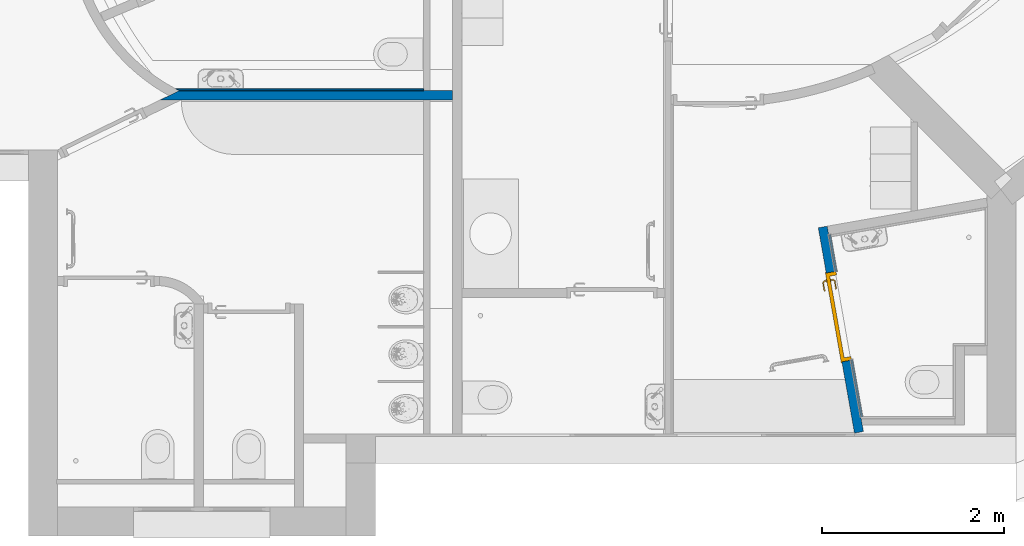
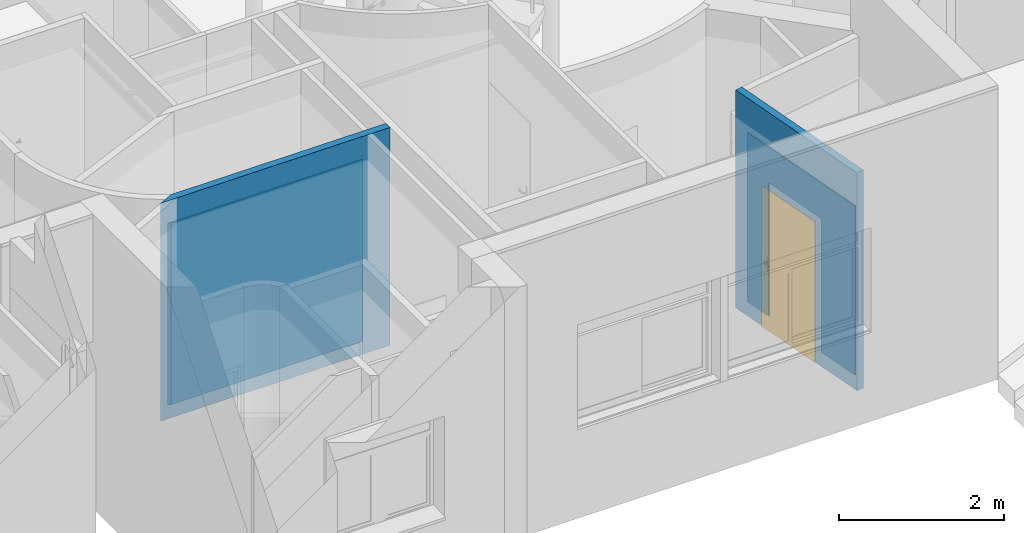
# One storey, part 44 of 137: 4 walls, 1 door, 2 openings.
"""IFC2X3 building model written with IfcOpenShell, lengths in centimetres."""

import ifcopenshell
import ifcopenshell.guid

model = None  # the IFC model being written
_history = None  # IfcOwnerHistory: only IFC2X3 demands one
_inside = {}  # id of a spatial element -> (the spatial element, [elements in it])
_under = {}  # id of a project, library or spatial element -> (it, [spatial elements below it])
_declared = {}  # id of a project -> (the project, [libraries it declares])
_typed = {}  # id of a type object -> (the type object, [elements of that type])
_made_of = {}  # id of a material, layer set ... -> (it, [elements and type objects made of it])


def new_model(schema):
    """Start an empty IFC model of exactly this schema.

    Asked for "IFC4X3", IfcOpenShell would pick the latest addendum, in which some entities
    have other attributes; the version numbers below select the first issue.
    IFC2X3 requires an IfcOwnerHistory on every rooted entity: one is made here for all.
    """
    global model, _history
    if schema == "IFC4X3":
        model = ifcopenshell.file(schema_version=(4, 3, 0, 0))
    else:
        model = ifcopenshell.file(schema=schema)
    _inside.clear()
    _under.clear()
    _declared.clear()
    _typed.clear()
    _made_of.clear()
    _history = None
    if model.schema == "IFC2X3":
        org = make("IfcOrganization", Name="unknown")
        user = make(
            "IfcPersonAndOrganization",
            ThePerson=make("IfcPerson", FamilyName="unknown"),
            TheOrganization=org,
        )
        app = make(
            "IfcApplication",
            ApplicationDeveloper=org,
            Version="unknown",
            ApplicationFullName="unknown",
            ApplicationIdentifier="unknown",
        )
        _history = make(
            "IfcOwnerHistory",
            OwningUser=user,
            OwningApplication=app,
            ChangeAction="ADDED",
            CreationDate=0,
        )
    return model


def make(cls, **values):
    """One entity of the class cls with the attributes given. An attribute that is None is left unset."""
    return model.create_entity(
        cls, **{name: value for name, value in values.items() if value is not None}
    )


def entity(cls, *values):
    """Any entity or typed value of the class cls, its attributes in the order of the schema. None: left unset."""
    e = model.create_entity(cls)
    for i, value in enumerate(values):
        if value is not None:
            e[i] = value
    return e


def rooted(cls, **values):
    """An entity with a GlobalId (a new one), such as an element, a storey or a relation."""
    return make(cls, GlobalId=ifcopenshell.guid.new(), OwnerHistory=_history, **values)


def si_unit(unit_type, name, prefix=None):
    """IfcSIUnit, for example si_unit("LENGTHUNIT", "METRE", prefix="MILLI")."""
    return make("IfcSIUnit", UnitType=unit_type, Prefix=prefix, Name=name)


def converted_unit(unit_type, name, factor, base, dimensions=None, offset=None):
    """IfcConversionBasedUnit, such as the inch: factor (a typed value) times the base unit."""
    return make(
        "IfcConversionBasedUnit"
        if offset is None
        else "IfcConversionBasedUnitWithOffset",
        ConversionOffset=offset,
        Dimensions=None
        if dimensions is None
        else entity("IfcDimensionalExponents", *dimensions),
        UnitType=unit_type,
        Name=name,
        ConversionFactor=make(
            "IfcMeasureWithUnit", ValueComponent=factor, UnitComponent=base
        ),
    )


def derived_unit(unit_type, elements):
    """IfcDerivedUnit: a product of units, each with its exponent."""
    return make(
        "IfcDerivedUnit",
        Elements=[
            make("IfcDerivedUnitElement", Unit=unit, Exponent=power)
            for unit, power in elements
        ],
        UnitType=unit_type,
    )


def assignment(units):
    """IfcUnitAssignment: the units of a project."""
    return None if units is None else make("IfcUnitAssignment", Units=units)


def point(xyz):
    """IfcCartesianPoint."""
    return None if xyz is None else make("IfcCartesianPoint", Coordinates=xyz)


def direction(xyz):
    """IfcDirection."""
    return None if xyz is None else make("IfcDirection", DirectionRatios=xyz)


def frame(location, z_axis=None, x_axis=None):
    """IfcAxis2Placement3D, a coordinate frame: its origin and axes. An axis left out is left unset."""
    return make(
        "IfcAxis2Placement3D",
        Location=point(location),
        Axis=direction(z_axis),
        RefDirection=direction(x_axis),
    )


def frame_2d(location, x_axis=None):
    """IfcAxis2Placement2D, a coordinate frame in the plane: its origin and x axis."""
    return make(
        "IfcAxis2Placement2D", Location=point(location), RefDirection=direction(x_axis)
    )


def origin():
    """The frame at (0, 0, 0) with its axes left unset."""
    return frame((0.0, 0.0, 0.0))


def place(relative_to, where):
    """IfcLocalPlacement: puts the frame where relative to a parent placement (None: the world)."""
    return make(
        "IfcLocalPlacement", PlacementRelTo=relative_to, RelativePlacement=where
    )


def context(
    kind, dimensions, precision=None, world=None, true_north=None, identifier=None
):
    """IfcGeometricRepresentationContext, for example the 3D "Model" context."""
    return make(
        "IfcGeometricRepresentationContext",
        ContextIdentifier=identifier,
        ContextType=kind,
        CoordinateSpaceDimension=dimensions,
        Precision=precision,
        WorldCoordinateSystem=world,
        TrueNorth=true_north,
    )


def subcontext(parent, identifier, kind, view, scale=None):
    """IfcGeometricRepresentationSubContext, for example "Body" below "Model"."""
    return make(
        "IfcGeometricRepresentationSubContext",
        ContextIdentifier=identifier,
        ContextType=kind,
        ParentContext=parent,
        TargetScale=scale,
        TargetView=view,
    )


def project(units=None, contexts=None):
    """IfcProject with its units and contexts."""
    return rooted(
        "IfcProject",
        Name="project",
        RepresentationContexts=contexts,
        UnitsInContext=assignment(units),
    )


def spatial(cls, under=None, at=None, **own):
    """A site, building, storey or space (cls), placed at a placement, below another one or the project."""
    s = rooted(cls, ObjectPlacement=at, **own)
    if under is not None:
        _under.setdefault(under.id(), (under, []))[1].append(s)
    return s


def polyline(points):
    """IfcPolyline through the points."""
    return make("IfcPolyline", Points=[point(p) for p in points])


def circle_curve(where, radius):
    """IfcCircle in the frame where."""
    return make("IfcCircle", Position=where, Radius=radius)


def parameter(value):
    """IfcParameterValue: where a trimmed curve begins or ends, as a parameter of its basis curve."""
    return model.create_entity("IfcParameterValue", value)


def trimmed(basis, trim1, trim2, sense, master):
    """IfcTrimmedCurve: the piece of a basis curve between two trims."""
    return make(
        "IfcTrimmedCurve",
        BasisCurve=basis,
        Trim1=trim1,
        Trim2=trim2,
        SenseAgreement=sense,
        MasterRepresentation=master,
    )


def segment(curve, same_sense, transition):
    """IfcCompositeCurveSegment."""
    return make(
        "IfcCompositeCurveSegment",
        Transition=transition,
        SameSense=same_sense,
        ParentCurve=curve,
    )


def composite_curve(segments, self_intersect=None):
    """IfcCompositeCurve: segments joined end to end."""
    return make("IfcCompositeCurve", Segments=segments, SelfIntersect=self_intersect)


def profile(cls, at=None, kind="AREA", **sizes):
    """A parametric profile (cls). Its sizes go by their IFC names, for example OverallWidth=200.0."""
    return make(cls, ProfileType=kind, Position=at, **sizes)


def rectangle(**sizes):
    """IfcRectangleProfileDef."""
    return profile("IfcRectangleProfileDef", **sizes)


def outline(outer, holes=None, kind="AREA"):
    """IfcArbitraryClosedProfileDef: a profile drawn as a closed curve; with holes, ...WithVoids."""
    if holes is None:
        return make("IfcArbitraryClosedProfileDef", ProfileType=kind, OuterCurve=outer)
    return make(
        "IfcArbitraryProfileDefWithVoids",
        ProfileType=kind,
        OuterCurve=outer,
        InnerCurves=holes,
    )


def extrude(swept, where, along, depth):
    """IfcExtrudedAreaSolid: the profile swept, set in the frame where, extruded along a direction by depth."""
    return make(
        "IfcExtrudedAreaSolid",
        SweptArea=swept,
        Position=where,
        ExtrudedDirection=direction(along),
        Depth=depth,
    )


def faces_of(points, faces, orient=None, outer=None):
    """IfcFace entities. A face is a list of loops; a loop is a list of indices into points, from 0.

    orient and outer hold one flag for each loop. By default every Orientation is true, the
    first loop of a face is its IfcFaceOuterBound and the others are IfcFaceBound.
    """
    made = []
    for i, loops in enumerate(faces):
        bounds = []
        for j, loop in enumerate(loops):
            is_outer = j == 0 if outer is None else outer[i][j]
            bounds.append(
                make(
                    "IfcFaceOuterBound" if is_outer else "IfcFaceBound",
                    Bound=make("IfcPolyLoop", Polygon=[points[k] for k in loop]),
                    Orientation=True if orient is None else orient[i][j],
                )
            )
        made.append(make("IfcFace", Bounds=bounds))
    return made


def faceted_brep(points, faces, orient=None, outer=None, voids=None):
    """IfcFacetedBrep: a solid bounded by flat faces; with voids (closed shells), ...WithVoids."""
    shared = [point(p) for p in points]
    hull = make("IfcClosedShell", CfsFaces=faces_of(shared, faces, orient, outer))
    if voids is None:
        return make("IfcFacetedBrep", Outer=hull)
    return make(
        "IfcFacetedBrepWithVoids",
        Outer=hull,
        Voids=[
            make(cls, CfsFaces=faces_of(shared, fs, o, b)) for cls, fs, o, b in voids
        ],
    )


def shape(context_of_items, identifier, shape_type, items):
    """IfcShapeRepresentation: the items that make up one representation, for example the "Body"."""
    return make(
        "IfcShapeRepresentation",
        ContextOfItems=context_of_items,
        RepresentationIdentifier=identifier,
        RepresentationType=shape_type,
        Items=items,
    )


def source(mapping_origin, context_of_items, identifier, shape_type, items):
    """IfcRepresentationMap: a shape defined once, which mapped items show again and again."""
    return make(
        "IfcRepresentationMap",
        MappingOrigin=mapping_origin,
        MappedRepresentation=shape(context_of_items, identifier, shape_type, items),
    )


def transform(
    local_origin,
    x_axis=None,
    y_axis=None,
    z_axis=None,
    scale=None,
    scale2=None,
    scale3=None,
    uniform=True,
):
    """IfcCartesianTransformationOperator3D, or its non-uniform kind. x_axis, y_axis, z_axis: its Axis1, 2, 3."""
    if uniform:
        return make(
            "IfcCartesianTransformationOperator3D",
            Axis1=direction(x_axis),
            Axis2=direction(y_axis),
            LocalOrigin=point(local_origin),
            Scale=scale,
            Axis3=direction(z_axis),
        )
    return make(
        "IfcCartesianTransformationOperator3DnonUniform",
        Axis1=direction(x_axis),
        Axis2=direction(y_axis),
        LocalOrigin=point(local_origin),
        Scale=scale,
        Axis3=direction(z_axis),
        Scale2=scale2,
        Scale3=scale3,
    )


def mapped(mapping_source, mapping_target):
    """IfcMappedItem: shows the shape of a source again, moved by a transform."""
    return make(
        "IfcMappedItem", MappingSource=mapping_source, MappingTarget=mapping_target
    )


def material(Name=None, Category=None):
    """IfcMaterial."""
    return make("IfcMaterial", Name=Name, Category=Category)


def material_list(materials):
    """IfcMaterialList."""
    return make("IfcMaterialList", Materials=materials)


def layer(
    of_material, thickness, ventilated=None, Name=None, Category=None, Priority=None
):
    """IfcMaterialLayer: one layer of a wall or slab, of a material (None: an air gap)."""
    return make(
        "IfcMaterialLayer",
        Material=of_material,
        LayerThickness=thickness,
        IsVentilated=ventilated,
        Name=Name,
        Category=Category,
        Priority=Priority,
    )


def layer_set(layers, Name=None):
    """IfcMaterialLayerSet."""
    return make("IfcMaterialLayerSet", MaterialLayers=layers, LayerSetName=Name)


def layer_usage(for_layer_set, set_direction, sense, offset, extent=None):
    """IfcMaterialLayerSetUsage: how a layer set lies in its element."""
    return make(
        "IfcMaterialLayerSetUsage",
        ForLayerSet=for_layer_set,
        LayerSetDirection=set_direction,
        DirectionSense=sense,
        OffsetFromReferenceLine=offset,
        ReferenceExtent=extent,
    )


def made_of(thing, what):
    """Note that an element or type object is made of a material, layer set ...; save() writes the relation."""
    if what is not None:
        _made_of.setdefault(what.id(), (what, []))[1].append(thing)
    return thing


def type_object(cls, material=None, **own):
    """A type object (cls), such as IfcWallType, which elements share."""
    return made_of(rooted(cls, **own), material)


def type_shapes(of_type, sources):
    """Give a type object the sources (RepresentationMaps) that its elements show as mapped items."""
    of_type.RepresentationMaps = sources


def element(
    cls,
    number,
    at=None,
    inside=None,
    cuts=None,
    type_object=None,
    material=None,
    context=None,
    identifier="Body",
    shape_type=None,
    held_by="IfcProductDefinitionShape",
    body=None,
    shapes=None,
    **own,
):
    """One element of the class cls, such as IfcWall. Its Tag is "e" and its number.

    at: its placement. inside: the storey or other place that contains it. cuts: it is an
    opening in that element (IfcRelVoidsElement). A single representation is given by context,
    identifier, shape_type and body (its items); several are given by shapes. held_by: the class
    of the entity that holds the representations. save() writes the other relations.
    """
    e = rooted(cls, Tag="e%d" % number, ObjectPlacement=at, **own)
    if body is not None:
        shapes = [shape(context, identifier, shape_type, body)]
    if shapes is not None:
        e.Representation = make(held_by, Representations=shapes)
    if inside is not None:
        _inside.setdefault(inside.id(), (inside, []))[1].append(e)
    if cuts is not None:
        rooted(
            "IfcRelVoidsElement", RelatingBuildingElement=cuts, RelatedOpeningElement=e
        )
    if type_object is not None:
        _typed.setdefault(type_object.id(), (type_object, []))[1].append(e)
    return made_of(e, material)


def fill(opening, filler):
    """IfcRelFillsElement: the door or window that sits in an opening."""
    return rooted(
        "IfcRelFillsElement",
        RelatingOpeningElement=opening,
        RelatedBuildingElement=filler,
    )


def aggregate(whole, parts):
    """IfcRelAggregates: a whole, such as a stair, and the parts it consists of."""
    return rooted("IfcRelAggregates", RelatingObject=whole, RelatedObjects=parts)


def save(model, path):
    """Write the relations noted so far, then the file.

    IfcRelAggregates (storeys below a building ...), IfcRelContainedInSpatialStructure (elements
    in a storey), IfcRelDefinesByType, IfcRelAssociatesMaterial and IfcRelDeclares: one each for
    every whole, place, type object, material and project.
    """
    for whole, parts in _under.values():
        aggregate(whole, parts)
    for where, things in _inside.values():
        rooted(
            "IfcRelContainedInSpatialStructure",
            RelatedElements=things,
            RelatingStructure=where,
        )
    for kind, things in _typed.values():
        rooted("IfcRelDefinesByType", RelatedObjects=things, RelatingType=kind)
    for what, things in _made_of.values():
        rooted("IfcRelAssociatesMaterial", RelatedObjects=things, RelatingMaterial=what)
    for by, libraries in _declared.values():
        rooted("IfcRelDeclares", RelatingContext=by, RelatedDefinitions=libraries)
    model.write(path)


model = new_model("IFC2X3")

# Units and contexts
model_context = context("Model", 3, precision=0.001, world=origin(), true_north=direction((6.12303176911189e-17, 1.0)))
body_context = subcontext(model_context, "Body", "Model", "MODEL_VIEW")
ifc_project = project(units=[si_unit("LENGTHUNIT", "METRE", prefix="CENTI"), si_unit("AREAUNIT", "SQUARE_METRE"), si_unit("VOLUMEUNIT", "CUBIC_METRE"), converted_unit("PLANEANGLEUNIT", "DEGREE", entity("IfcRatioMeasure", 0.0174532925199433), si_unit("PLANEANGLEUNIT", "RADIAN"), dimensions=[0, 0, 0, 0, 0, 0, 0]), si_unit("MASSUNIT", "GRAM", prefix="KILO"), si_unit("TIMEUNIT", "SECOND"), si_unit("FREQUENCYUNIT", "HERTZ"), si_unit("THERMODYNAMICTEMPERATUREUNIT", "DEGREE_CELSIUS"), derived_unit("THERMALTRANSMITTANCEUNIT", [(si_unit("MASSUNIT", "GRAM", prefix="KILO"), 1), (si_unit("THERMODYNAMICTEMPERATUREUNIT", "KELVIN"), -1), (si_unit("TIMEUNIT", "SECOND"), -3)]), derived_unit("VOLUMETRICFLOWRATEUNIT", [(si_unit("LENGTHUNIT", "METRE"), 3), (si_unit("TIMEUNIT", "SECOND"), -1)]), si_unit("ELECTRICCURRENTUNIT", "AMPERE"), si_unit("ELECTRICVOLTAGEUNIT", "VOLT"), si_unit("POWERUNIT", "WATT"), si_unit("FORCEUNIT", "NEWTON", prefix="KILO"), si_unit("ILLUMINANCEUNIT", "LUX"), si_unit("LUMINOUSFLUXUNIT", "LUMEN"), si_unit("LUMINOUSINTENSITYUNIT", "CANDELA"), derived_unit("USERDEFINED", [(si_unit("MASSUNIT", "GRAM", prefix="KILO"), -1), (si_unit("LENGTHUNIT", "METRE"), -2), (si_unit("TIMEUNIT", "SECOND"), 3), (si_unit("LUMINOUSFLUXUNIT", "LUMEN"), 1)]), derived_unit("LINEARVELOCITYUNIT", [(si_unit("LENGTHUNIT", "METRE"), 1), (si_unit("TIMEUNIT", "SECOND"), -1)]), si_unit("PRESSUREUNIT", "PASCAL"), derived_unit("USERDEFINED", [(si_unit("LENGTHUNIT", "METRE"), -2), (si_unit("MASSUNIT", "GRAM", prefix="KILO"), 1), (si_unit("TIMEUNIT", "SECOND"), -2)])], contexts=[model_context])

# Site, building, storey
site_placement = place(None, frame((8.62739174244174, -249.285249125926, 0.0)))
site = spatial("IfcSite", under=ifc_project, at=site_placement, Name="Default", CompositionType="ELEMENT")
building_placement = place(site_placement, origin())
building = spatial("IfcBuilding", under=site, at=building_placement, CompositionType="ELEMENT")
storey_placement = place(building_placement, origin())
storey = spatial("IfcBuildingStorey", under=building, at=storey_placement, Name="RDC", CompositionType="ELEMENT", Elevation=-8.82465566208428e-11)

# Wall, opening, door
ifc_material_1 = material(Name="Plâtre")
ifc_layer_1 = layer(ifc_material_1, 10.0)
ifc_layer_set_1 = layer_set([ifc_layer_1], Name="Mur de base:PLA 10")
ifc_layer_usage_1 = layer_usage(ifc_layer_set_1, "AXIS2", "NEGATIVE", 5.0)
wall_type_1 = type_object("IfcWallType", Name="Mur de base:PLA 10", PredefinedType="STANDARD", material=ifc_layer_set_1)
wall_1_placement = place(storey_placement, frame((3203.15521840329, -94.1667432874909, 0.0), z_axis=(0.0, 0.0, 1.0), x_axis=(-0.173648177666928, 0.984807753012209, 0.0)))
wall_1 = element("IfcWallStandardCase", 1, at=wall_1_placement, inside=storey, type_object=wall_type_1, material=ifc_layer_usage_1, Name="Mur de base:PLA 10", ObjectType="Mur de base:PLA 10", context=body_context, shape_type="SweptSolid", body=[
    extrude(rectangle(XDim=229.0, YDim=9.99999999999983, at=frame_2d((114.5, -1.4432899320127e-13), x_axis=(-1.0, 0.0))), origin(), (0.0, 0.0, 1.0), 322.000000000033),
])
opening_1_placement = place(wall_1_placement, frame((79.4999999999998, -5.0, 0.0)))
opening_1 = element("IfcOpeningElement", 2, at=opening_1_placement, cuts=wall_1, Name="Simple(R)-bois_MU:93x204cm_MU:1", ObjectType="Opening", context=body_context, shape_type="SweptSolid", body=[
    extrude(rectangle(XDim=206.999999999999, YDim=98.9999999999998, at=frame_2d((103.499999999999, 49.5), x_axis=(1.0, 0.0))), frame((0.0, 0.0, 0.0), z_axis=(0.0, 1.0, 0.0), x_axis=(0.0, 0.0, 1.0)), (0.0, 0.0, 1.0), 10.0),
])
ifc_material_2 = material(Name="Porte-Poignée_MU")
ifc_material_3 = material(Name="Porte-Cadre_MU")
ifc_material_4 = material(Name="Porte Panneau_MU")
ifc_material_list_1 = material_list([ifc_material_2, ifc_material_3, ifc_material_4])
ifc_material_list_2 = material_list([ifc_material_2, ifc_material_3, ifc_material_4])
door_style = type_object("IfcDoorStyle", Name="93x204cm_MU", ConstructionType="NOTDEFINED", OperationType="SINGLE_SWING_RIGHT", ParameterTakesPrecedence=False, Sizeable=False, material=ifc_material_list_2)
shared_shape = source(origin(), body_context, "Body", "Brep", [
    faceted_brep([(8.29747013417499, 3.69999999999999, 100.778044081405), (7.89999999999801, 3.69999999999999, 100.699999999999), (7.89999999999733, 3.69999999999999, 99.2999999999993), (8.2974701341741, 3.69999999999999, 99.2219559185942), (8.70252986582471, 3.69999999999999, 99.2219559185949), (9.10000000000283, 3.69999999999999, 99.3000000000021), (9.10000000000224, 3.69999999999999, 100.699999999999), (8.70252986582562, 3.69999999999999, 100.778044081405), (9.10000000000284, 5.94852045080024, 99.3000000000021), (9.10000000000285, 5.94852045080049, 100.699999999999), (8.70252986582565, 6.1131579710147, 100.778044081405), (10.0838906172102, 7.49451872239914, 100.778044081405), (9.91610938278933, 7.89957845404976, 100.778044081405), (8.29747013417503, 6.2809392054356, 100.778044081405), (19.0684749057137, 6.84673156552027, 100.778044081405), (19.3548953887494, 7.13315204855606, 100.778044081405), (18.5884689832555, 7.89957845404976, 100.778044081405), (18.4206877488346, 7.49451872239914, 100.778044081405), (7.89999999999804, 6.44557672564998, 100.699999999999), (7.89999999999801, 6.44557672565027, 99.2999999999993), (8.29747013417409, 6.28093920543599, 99.2219559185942), (9.91610938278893, 7.8995784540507, 99.2219559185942), (10.0838906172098, 7.49451872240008, 99.2219559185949), (8.70252986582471, 6.11315797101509, 99.2219559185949), (19.35489538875, 7.1331520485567, 99.2219559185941), (19.0684749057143, 6.84673156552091, 99.2219559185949), (18.420687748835, 7.49451872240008, 99.2219559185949), (18.5884689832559, 7.8995784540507, 99.2219559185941), (10.2485281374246, 7.09704858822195, 99.3000000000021), (10.2485281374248, 7.09704858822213, 100.699999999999), (9.75147186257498, 8.29704858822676, 100.699999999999), (9.75147186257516, 8.29704858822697, 99.2999999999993), (14.2522904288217, 7.09704858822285, 99.3000000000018), (18.2560502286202, 7.09704858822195, 99.3000000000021), (18.2560502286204, 7.09704858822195, 100.699999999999), (14.2522891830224, 7.09704858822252, 100.699999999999), (14.2522891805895, 7.71249275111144, 100.787811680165), (18.7531065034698, 8.29704858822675, 100.699999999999), (14.7600577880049, 8.29704858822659, 100.699999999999), (18.7531065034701, 8.29704858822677, 99.2999999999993), (13.7445206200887, 8.29704858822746, 99.2999999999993), (14.2522892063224, 7.71249274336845, 99.2121883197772), (18.787421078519, 6.56567773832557, 99.3000000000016), (19.635949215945, 7.41420587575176, 99.2999999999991), (19.6359492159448, 7.4142058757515, 100.699999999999), (18.7874210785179, 6.5656777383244, 100.699999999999)], [[[0, 1, 2, 3, 4, 5, 6, 7]], [[6, 5, 8, 9]], [[9, 10, 7, 6]], [[10, 11, 12, 13, 0, 7]], [[14, 15, 16, 17]], [[13, 18, 1, 0]], [[2, 1, 18, 19]], [[19, 20, 3, 2]], [[20, 21, 22, 23, 4, 3]], [[24, 25, 26, 27]], [[23, 8, 5, 4]], [[9, 8, 28, 29]], [[29, 11, 10, 9]], [[12, 30, 18, 13]], [[19, 18, 30, 31]], [[31, 21, 20, 19]], [[22, 28, 8, 23]], [[29, 28, 32, 33, 34, 35]], [[11, 35, 36]], [[16, 37, 38]], [[30, 12, 38]], [[38, 12, 36]], [[36, 35, 17]], [[17, 16, 36]], [[35, 11, 29]], [[34, 17, 35]], [[11, 36, 12]], [[38, 36, 16]], [[31, 30, 38, 37, 39, 40]], [[40, 41, 21]], [[41, 40, 27]], [[21, 31, 40]], [[39, 27, 40]], [[41, 32, 22]], [[22, 21, 41]], [[26, 32, 41]], [[28, 22, 32]], [[32, 26, 33]], [[26, 41, 27]], [[42, 25, 24, 43, 44, 15, 14, 45]], [[34, 33, 42, 45]], [[45, 14, 17, 34]], [[15, 44, 37, 16]], [[39, 37, 44, 43]], [[43, 24, 27, 39]], [[25, 42, 33, 26]]]),
    faceted_brep([(8.29747013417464, -1.30000000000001, 100.778044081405), (8.70252986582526, -1.30000000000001, 100.778044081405), (9.10000000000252, -1.30000000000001, 100.699999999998), (9.10000000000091, -1.30000000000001, 99.3000000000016), (8.70252986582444, -1.30000000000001, 99.2219559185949), (8.29747013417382, -1.30000000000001, 99.2219559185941), (7.8999999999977, -1.30000000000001, 99.2999999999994), (7.89999999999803, -1.30000000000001, 100.699999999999), (7.89999999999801, -4.06509507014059, 100.699999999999), (8.29747013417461, -3.90045754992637, 100.778044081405), (9.90235851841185, -5.50534593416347, 100.778044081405), (10.0701397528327, -5.10028620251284, 100.778044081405), (8.70252986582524, -3.73267631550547, 100.778044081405), (19.3521810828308, -4.73891952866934, 100.778044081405), (19.0657605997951, -4.4524990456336, 100.778044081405), (18.4179734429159, -5.10028620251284, 100.778044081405), (18.5857546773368, -5.50534593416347, 100.778044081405), (9.10000000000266, -3.56803879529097, 100.699999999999), (9.10000000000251, -3.56803879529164, 99.3000000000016), (8.70252986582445, -3.7326763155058, 99.2219559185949), (10.0701397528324, -5.10028620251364, 99.2219559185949), (9.90235851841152, -5.50534593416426, 99.2219559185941), (8.29747013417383, -3.9004575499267, 99.2219559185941), (19.0657605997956, -4.45249904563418, 99.2219559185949), (19.3521810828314, -4.73891952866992, 99.2219559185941), (18.5857546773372, -5.50534593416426, 99.2219559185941), (18.4179734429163, -5.10028620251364, 99.2219559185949), (7.89999999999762, -4.06509507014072, 99.2999999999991), (9.73772099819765, -5.90281606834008, 100.699999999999), (10.2347772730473, -4.70281606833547, 100.699999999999), (10.2347772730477, -4.70281606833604, 99.3000000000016), (9.73772099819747, -5.90281606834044, 99.2999999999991), (13.7307697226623, -5.90281606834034, 100.699999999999), (14.2440566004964, -5.31828027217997, 100.787811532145), (18.7503921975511, -5.90281606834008, 100.699999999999), (14.2440565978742, -4.70281606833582, 100.699999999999), (18.2533359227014, -4.70281606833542, 100.699999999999), (18.2533359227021, -4.70281606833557, 99.3000000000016), (14.2440563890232, -4.70281606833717, 99.3000000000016), (14.2440565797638, -5.31828027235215, 99.2121884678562), (18.7503921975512, -5.90281606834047, 99.2999999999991), (14.7573433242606, -5.90281606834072, 99.2999999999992), (18.7847067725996, -4.1714452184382, 100.699999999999), (19.6332349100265, -5.01997335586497, 100.699999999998), (19.633234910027, -5.01997335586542, 99.2999999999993), (18.7847067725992, -4.17144521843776, 99.3000000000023)], [[[0, 1, 2, 3, 4, 5, 6, 7]], [[8, 9, 0, 7]], [[9, 10, 11, 12, 1, 0]], [[13, 14, 15, 16]], [[12, 17, 2, 1]], [[3, 2, 17, 18]], [[18, 19, 4, 3]], [[19, 20, 21, 22, 5, 4]], [[23, 24, 25, 26]], [[22, 27, 6, 5]], [[7, 6, 27, 8]], [[28, 10, 9, 8]], [[11, 29, 17, 12]], [[18, 17, 29, 30]], [[30, 20, 19, 18]], [[21, 31, 27, 22]], [[8, 27, 31, 28]], [[32, 33, 10]], [[33, 32, 16]], [[10, 28, 32]], [[34, 16, 32]], [[33, 35, 11]], [[11, 10, 33]], [[15, 35, 33]], [[29, 11, 35]], [[35, 15, 36]], [[15, 33, 16]], [[30, 29, 35, 36, 37, 38]], [[20, 38, 39]], [[25, 40, 41]], [[31, 21, 41]], [[41, 21, 39]], [[39, 38, 26]], [[26, 25, 39]], [[38, 20, 30]], [[37, 26, 38]], [[20, 39, 21]], [[41, 39, 25]], [[28, 31, 41, 40, 34, 32]], [[42, 14, 13, 43, 44, 24, 23, 45]], [[43, 13, 16, 34]], [[14, 42, 36, 15]], [[37, 36, 42, 45]], [[45, 23, 26, 37]], [[24, 44, 40, 25]], [[34, 40, 44, 43]]]),
    faceted_brep([(9.53527618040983, 3.19999999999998, 86.6003983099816), (10.4999999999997, 3.19999999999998, 87.0), (10.4999999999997, 3.19999999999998, 108.0), (9.53527618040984, 3.19999999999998, 108.399601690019), (8.49999999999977, 3.19999999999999, 108.535898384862), (7.46472381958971, 3.19999999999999, 108.399601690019), (6.49999999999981, 3.19999999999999, 108.0), (6.49999999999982, 3.19999999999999, 87.0), (7.4647238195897, 3.19999999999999, 86.6003983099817), (8.49999999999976, 3.19999999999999, 86.4641016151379), (9.53527618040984, 3.69999999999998, 108.399601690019), (10.4999999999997, 3.69999999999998, 108.0), (10.4999999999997, 3.69999999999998, 87.0), (9.53527618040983, 3.69999999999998, 86.6003983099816), (8.49999999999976, 3.69999999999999, 86.4641016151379), (7.4647238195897, 3.69999999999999, 86.6003983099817), (6.49999999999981, 3.69999999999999, 87.0), (6.49999999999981, 3.69999999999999, 108.0), (7.46472381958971, 3.69999999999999, 108.399601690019), (8.49999999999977, 3.69999999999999, 108.535898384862)], [[[0, 1, 2, 3, 4, 5, 6, 7, 8, 9]], [[10, 11, 12, 13, 14, 15, 16, 17, 18, 19]], [[11, 10, 3, 2]], [[3, 10, 19, 4]], [[19, 18, 5, 4]], [[18, 17, 6, 5]], [[7, 6, 17, 16]], [[16, 15, 8, 7]], [[8, 15, 14, 9]], [[14, 13, 0, 9]], [[13, 12, 1, 0]], [[2, 1, 12, 11]]]),
    faceted_brep([(9.53527618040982, -1.30000000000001, 86.6003983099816), (10.4999999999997, -1.30000000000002, 87.0), (10.4999999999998, -1.30000000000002, 108.0), (9.53527618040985, -1.30000000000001, 108.399601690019), (8.49999999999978, -1.30000000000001, 108.535898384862), (7.46472381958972, -1.30000000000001, 108.399601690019), (6.49999999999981, -1.3, 108.0), (6.49999999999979, -1.3, 87.0), (7.46472381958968, -1.30000000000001, 86.6003983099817), (8.49999999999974, -1.30000000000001, 86.4641016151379), (9.53527618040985, -0.800000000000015, 108.399601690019), (10.4999999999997, -0.800000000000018, 108.0), (10.4999999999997, -0.800000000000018, 87.0), (9.53527618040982, -0.800000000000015, 86.6003983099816), (8.49999999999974, -0.800000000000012, 86.4641016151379), (7.46472381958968, -0.800000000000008, 86.6003983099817), (6.49999999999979, -0.800000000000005, 87.0), (6.49999999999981, -0.800000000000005, 108.0), (7.46472381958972, -0.800000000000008, 108.399601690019), (8.49999999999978, -0.800000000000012, 108.535898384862)], [[[0, 1, 2, 3, 4, 5, 6, 7, 8, 9]], [[10, 11, 12, 13, 14, 15, 16, 17, 18, 19]], [[16, 15, 8, 7]], [[8, 15, 14, 9]], [[14, 13, 0, 9]], [[13, 12, 1, 0]], [[2, 1, 12, 11]], [[11, 10, 3, 2]], [[3, 10, 19, 4]], [[19, 18, 5, 4]], [[18, 17, 6, 5]], [[7, 6, 17, 16]]]),
    faceted_brep([(0.0, 0.0, 0.0), (0.0, 10.0, 0.0), (-1.0, 10.0, 0.0), (-1.0, 10.8000000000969, 0.0), (4.0, 10.8000000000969, 0.0), (4.0, 3.2, 0.0), (3.0, 3.2, 0.0), (3.0, -0.799999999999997, 0.0), (-1.0, -0.799999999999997, 0.0), (-1.0, 0.0, 0.0), (0.0, 0.0, 207.0), (0.0, 10.0, 207.0), (99.0, 10.0, 207.0), (99.0, 10.0, 0.0), (100.0, 10.0, 0.0), (100.0, 10.0, 208.0), (-1.0, 10.0, 208.0), (-1.0, 10.8000000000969, 208.0), (100.0, 10.8000000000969, 208.0), (100.0, 10.8000000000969, 0.0), (95.0, 10.8000000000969, 0.0), (95.0, 10.8000000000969, 203.0), (4.0, 10.8000000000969, 203.0), (4.0, 3.2, 203.0), (95.0, 3.2, 203.0), (95.0, 3.2, 0.0), (96.0, 3.2, 0.0), (96.0, 3.2, 204.0), (3.0, 3.2, 204.0), (3.0, -0.799999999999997, 204.0), (96.0, -0.799999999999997, 204.0), (96.0, -0.799999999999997, 0.0), (100.0, -0.799999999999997, 0.0), (100.0, -0.799999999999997, 208.0), (-1.0, -0.799999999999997, 208.0), (-1.0, 0.0, 208.0), (100.0, 0.0, 208.0), (100.0, 0.0, 0.0), (99.0, 0.0, 0.0), (99.0, 0.0, 207.0)], [[[0, 1, 2, 3, 4, 5, 6, 7, 8, 9]], [[1, 0, 10, 11]], [[2, 1, 11, 12, 13, 14, 15, 16]], [[3, 2, 16, 17]], [[4, 3, 17, 18, 19, 20, 21, 22]], [[5, 4, 22, 23]], [[6, 5, 23, 24, 25, 26, 27, 28]], [[7, 6, 28, 29]], [[8, 7, 29, 30, 31, 32, 33, 34]], [[9, 8, 34, 35]], [[0, 9, 35, 36, 37, 38, 39, 10]], [[12, 39, 38, 13]], [[38, 37, 32, 31, 26, 25, 20, 19, 14, 13]], [[18, 15, 14, 19]], [[24, 21, 20, 25]], [[30, 27, 26, 31]], [[36, 33, 32, 37]], [[11, 10, 39, 12]], [[17, 16, 15, 18]], [[23, 22, 21, 24]], [[29, 28, 27, 30]], [[35, 34, 33, 36]]]),
    faceted_brep([(3.0, -0.799999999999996, 204.0), (3.0, -0.799999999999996, 0.0), (96.0, -0.799999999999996, 0.0), (96.0, -0.799999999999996, 204.0), (3.0, 3.2, 204.0), (96.0, 3.2, 204.0), (96.0, 3.2, 0.0), (3.0, 3.2, 0.0)], [[[0, 1, 2, 3]], [[4, 5, 6, 7]], [[1, 0, 4, 7]], [[2, 1, 7, 6]], [[3, 2, 6, 5]], [[0, 3, 5, 4]]]),
])
type_shapes(door_style, [shared_shape])
door_placement = place(opening_1_placement, frame((99.0, 10.0, 0.0), z_axis=(0.0, 0.0, 1.0), x_axis=(-1.0, 0.0, 0.0)))
door = element("IfcDoor", 3, at=door_placement, inside=storey, type_object=door_style, material=ifc_material_list_1, Name="Simple(R)-bois_MU:93x204cm_MU", ObjectType="93x204cm_MU", OverallHeight=206.999999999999, OverallWidth=98.9999999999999, context=body_context, shape_type="MappedRepresentation", body=[
    mapped(shared_shape, transform((0.0, 0.0, 0.0), scale=1.0)),
])
fill(opening_1, door)

# Walls
ifc_layer_usage_2 = layer_usage(ifc_layer_set_1, "AXIS2", "NEGATIVE", 5.0)
wall_2_placement = place(storey_placement, frame((2435.97572238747, 276.128568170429, 0.0)))
element("IfcWallStandardCase", 4, at=wall_2_placement, inside=storey, type_object=wall_type_1, material=ifc_layer_usage_2, Name="Mur de base:PLA 10", ObjectType="Mur de base:PLA 10", context=body_context, shape_type="SweptSolid", body=[
    extrude(outline(polyline([(320.929105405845, -5.0), (320.929105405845, 5.0), (295.929105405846, 5.0), (288.929105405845, 5.0), (20.5030384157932, 5.0), (9.33625525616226, -0.44640405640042), (0.0, -5.0), (22.8117203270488, -5.0), (288.929105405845, -5.0), (295.929105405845, -5.0), (320.929105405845, -5.0)])), origin(), (0.0, 0.0, 1.0), 322.000000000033),
])
ifc_material_5 = material(Name="MU_carrelage_mural")
ifc_layer_2 = layer(ifc_material_5, 2.0)
ifc_layer_set_2 = layer_set([ifc_layer_2], Name="Mur de base:CAR 2")
ifc_layer_usage_3 = layer_usage(ifc_layer_set_2, "AXIS2", "NEGATIVE", 1.0)
wall_type_2 = type_object("IfcWallType", Name="Mur de base:CAR 2", PredefinedType="STANDARD", material=ifc_layer_set_2)
wall_3_placement = place(storey_placement, frame((2724.90482779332, 282.128568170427, 11.0), z_axis=(0.0, 0.0, 1.0), x_axis=(-1.0, 0.0, 0.0)))
element("IfcWallStandardCase", 5, at=wall_3_placement, inside=storey, type_object=wall_type_2, material=ifc_layer_usage_3, Name="Mur de base:CAR 2", ObjectType="Mur de base:CAR 2", context=body_context, shape_type="SweptSolid", body=[
    extrude(outline(composite_curve([segment(trimmed(circle_curve(frame_2d((177.848095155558, -180.129696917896), x_axis=(0.231259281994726, 0.972892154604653)), 202.515026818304), [parameter(345.564402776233)], [parameter(346.802850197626)], True, "PARAMETER"), True, "CONTINUOUS"), segment(polyline([(268.426066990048, 1.0), (0.0, 1.0)]), True, "CONTINUOUS"), segment(polyline([(0.0, 1.0), (0.0, -1.0)]), True, "CONTINUOUS"), segment(polyline([(0.0, -1.0), (272.319719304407, -1.0)]), True, "CONTINUOUS")], self_intersect=False)), origin(), (0.0, 0.0, 1.0), 269.0),
])

# Wall, opening
ifc_layer_usage_4 = layer_usage(ifc_layer_set_2, "AXIS2", "NEGATIVE", 1.0)
wall_4_placement = place(storey_placement, frame((3206.25492677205, -77.1934401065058, 10.0), z_axis=(0.0, 0.0, 1.0), x_axis=(-0.173648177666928, 0.984807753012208, 0.0)))
wall_4 = element("IfcWallStandardCase", 6, at=wall_4_placement, inside=storey, type_object=wall_type_2, material=ifc_layer_usage_4, Name="Mur de base:CAR 2", ObjectType="Mur de base:CAR 2", context=body_context, shape_type="SweptSolid", body=[
    extrude(rectangle(XDim=202.822818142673, YDim=1.99999999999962, at=frame_2d((101.411409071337, 5.19029264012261e-14), x_axis=(-1.0, 0.0))), origin(), (0.0, 0.0, 1.0), 250.0),
])
opening_2_placement = place(wall_4_placement, origin())
element("IfcOpeningElement", 7, at=opening_2_placement, cuts=wall_4, Name="Mur de base:CAR 2", ObjectType="Opening", context=body_context, shape_type="SweptSolid", body=[
    extrude(rectangle(XDim=206.999999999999, YDim=98.9999999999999, at=frame_2d((-1.4210854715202e-14, -7.46069872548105e-14), x_axis=(1.0, 0.0))), frame((112.822818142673, -141.400000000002, 93.500000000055), z_axis=(0.0, 1.0, 0.0), x_axis=(0.0, 0.0, 1.0)), (0.0, 0.0, 1.0), 304.8),
])

save(model, "model.ifc")
